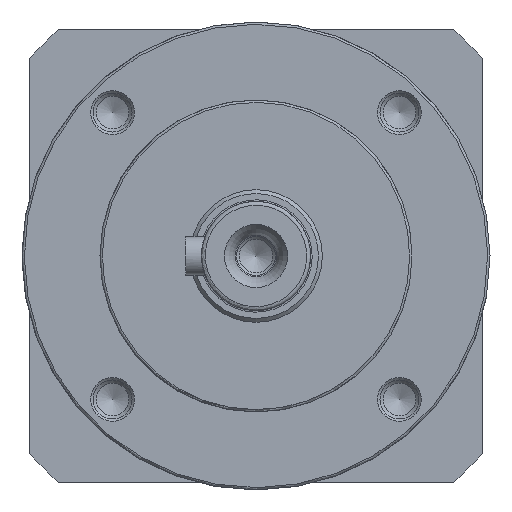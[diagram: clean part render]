
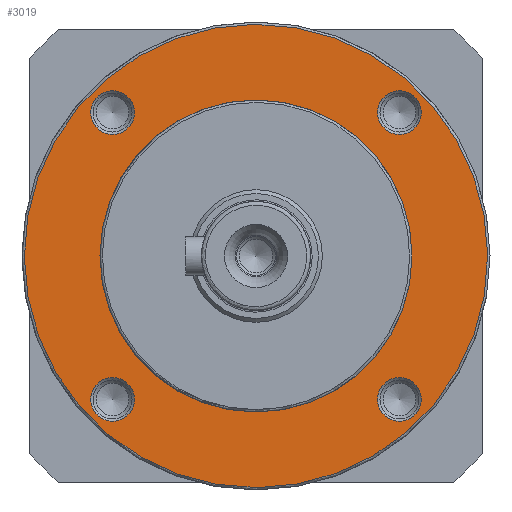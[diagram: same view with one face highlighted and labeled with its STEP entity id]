
A CAD part, left-side view. The second image highlights one B-rep face of the part: STEP entity #3019.
In plain terms, the highlighted planar face has unit normal (-1, 0, 0).
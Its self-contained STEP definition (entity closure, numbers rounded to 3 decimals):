
#595=FACE_BOUND('',#869,.T.);
#596=FACE_BOUND('',#870,.T.);
#597=FACE_BOUND('',#871,.T.);
#598=FACE_BOUND('',#872,.T.);
#599=FACE_BOUND('',#873,.T.);
#667=FACE_OUTER_BOUND('',#868,.T.);
#868=EDGE_LOOP('',(#2168));
#869=EDGE_LOOP('',(#2169));
#870=EDGE_LOOP('',(#2170));
#871=EDGE_LOOP('',(#2171));
#872=EDGE_LOOP('',(#2172));
#873=EDGE_LOOP('',(#2173));
#1120=CIRCLE('',#3276,29.7);
#1126=CIRCLE('',#3288,2.8);
#1127=CIRCLE('',#3289,2.8);
#1128=CIRCLE('',#3290,2.8);
#1129=CIRCLE('',#3291,20.);
#1130=CIRCLE('',#3292,2.8);
#1326=VERTEX_POINT('',#4739);
#1331=VERTEX_POINT('',#4758);
#1332=VERTEX_POINT('',#4760);
#1333=VERTEX_POINT('',#4762);
#1334=VERTEX_POINT('',#4764);
#1335=VERTEX_POINT('',#4766);
#1648=EDGE_CURVE('',#1326,#1326,#1120,.T.);
#1656=EDGE_CURVE('',#1331,#1331,#1126,.T.);
#1657=EDGE_CURVE('',#1332,#1332,#1127,.T.);
#1658=EDGE_CURVE('',#1333,#1333,#1128,.T.);
#1659=EDGE_CURVE('',#1334,#1334,#1129,.T.);
#1660=EDGE_CURVE('',#1335,#1335,#1130,.T.);
#2168=ORIENTED_EDGE('',*,*,#1648,.F.);
#2169=ORIENTED_EDGE('',*,*,#1656,.T.);
#2170=ORIENTED_EDGE('',*,*,#1657,.T.);
#2171=ORIENTED_EDGE('',*,*,#1658,.T.);
#2172=ORIENTED_EDGE('',*,*,#1659,.F.);
#2173=ORIENTED_EDGE('',*,*,#1660,.T.);
#2937=PLANE('',#3287);
#3019=ADVANCED_FACE('',(#667,#595,#596,#597,#598,#599),#2937,.T.);
#3276=AXIS2_PLACEMENT_3D('',#4740,#3758,#3759);
#3287=AXIS2_PLACEMENT_3D('',#4757,#3782,#3783);
#3288=AXIS2_PLACEMENT_3D('',#4759,#3784,#3785);
#3289=AXIS2_PLACEMENT_3D('',#4761,#3786,#3787);
#3290=AXIS2_PLACEMENT_3D('',#4763,#3788,#3789);
#3291=AXIS2_PLACEMENT_3D('',#4765,#3790,#3791);
#3292=AXIS2_PLACEMENT_3D('',#4767,#3792,#3793);
#3758=DIRECTION('center_axis',(1.,0.,0.));
#3759=DIRECTION('ref_axis',(0.,-1.,0.));
#3782=DIRECTION('center_axis',(-1.,0.,0.));
#3783=DIRECTION('ref_axis',(0.,1.,0.));
#3784=DIRECTION('center_axis',(1.,0.,0.));
#3785=DIRECTION('ref_axis',(0.,0.,-1.));
#3786=DIRECTION('center_axis',(1.,0.,0.));
#3787=DIRECTION('ref_axis',(0.,0.,-1.));
#3788=DIRECTION('center_axis',(1.,0.,0.));
#3789=DIRECTION('ref_axis',(0.,0.,-1.));
#3790=DIRECTION('center_axis',(-1.,0.,0.));
#3791=DIRECTION('ref_axis',(0.,1.,0.));
#3792=DIRECTION('center_axis',(1.,0.,0.));
#3793=DIRECTION('ref_axis',(0.,0.,-1.));
#4739=CARTESIAN_POINT('',(-68.,29.7,-0.136));
#4740=CARTESIAN_POINT('Origin',(-68.,0.,0.));
#4757=CARTESIAN_POINT('Origin',(-68.,0.,0.));
#4758=CARTESIAN_POINT('',(-68.,18.385,-15.585));
#4759=CARTESIAN_POINT('Origin',(-68.,18.385,-18.385));
#4760=CARTESIAN_POINT('',(-68.,-18.385,-15.585));
#4761=CARTESIAN_POINT('Origin',(-68.,-18.385,-18.385));
#4762=CARTESIAN_POINT('',(-68.,-18.385,21.185));
#4763=CARTESIAN_POINT('Origin',(-68.,-18.385,18.385));
#4764=CARTESIAN_POINT('',(-68.,-19.999,-0.204));
#4765=CARTESIAN_POINT('Origin',(-68.,0.,0.));
#4766=CARTESIAN_POINT('',(-68.,18.385,21.185));
#4767=CARTESIAN_POINT('Origin',(-68.,18.385,18.385));
